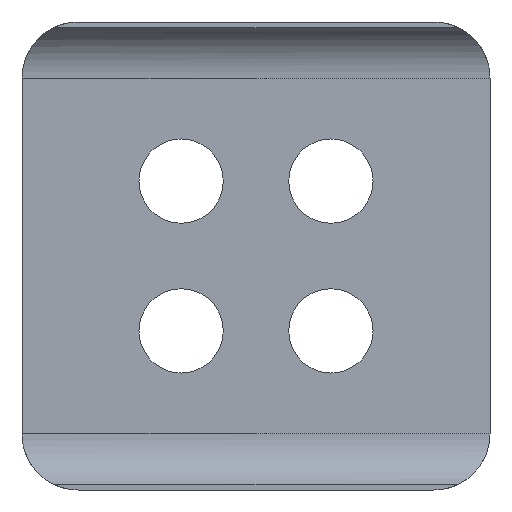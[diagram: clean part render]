
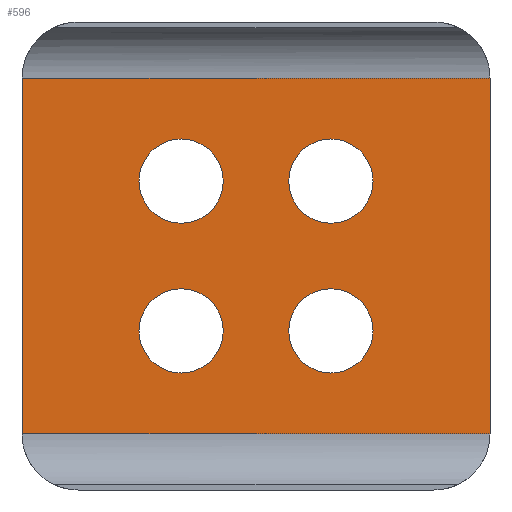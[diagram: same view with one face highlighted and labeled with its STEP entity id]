
A CAD part, front view. The second image highlights one B-rep face of the part: STEP entity #596.
In plain terms, the highlighted planar face has unit normal (0, -1, 0).
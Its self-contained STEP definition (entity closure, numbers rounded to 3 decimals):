
#3 = CARTESIAN_POINT ( 'NONE',  ( 4., -3., 4. ) ) ;
#26 = EDGE_LOOP ( 'NONE', ( #453 ) ) ;
#52 = VERTEX_POINT ( 'NONE', #487 ) ;
#68 = EDGE_LOOP ( 'NONE', ( #877, #412, #797, #834 ) ) ;
#80 = CARTESIAN_POINT ( 'NONE',  ( -4., -3., -4. ) ) ;
#84 = CIRCLE ( 'NONE', #863, 2.25 ) ;
#106 = DIRECTION ( 'NONE',  ( 0., 1., 0. ) ) ;
#120 = CIRCLE ( 'NONE', #735, 2.25 ) ;
#158 = EDGE_CURVE ( 'NONE', #52, #52, #84, .T. ) ;
#174 = FACE_OUTER_BOUND ( 'NONE', #68, .T. ) ;
#224 = EDGE_CURVE ( 'NONE', #690, #509, #668, .T. ) ;
#227 = VERTEX_POINT ( 'NONE', #244 ) ;
#228 = DIRECTION ( 'NONE',  ( 0., -1., 0. ) ) ;
#239 = VECTOR ( 'NONE', #345, 1000. ) ;
#244 = CARTESIAN_POINT ( 'NONE',  ( -12.5, -3., -9.5 ) ) ;
#260 = LINE ( 'NONE', #617, #239 ) ;
#262 = DIRECTION ( 'NONE',  ( 0., 0., 1. ) ) ;
#266 = CARTESIAN_POINT ( 'NONE',  ( 12.5, -3., 9.5 ) ) ;
#288 = EDGE_CURVE ( 'NONE', #484, #227, #260, .T. ) ;
#315 = VERTEX_POINT ( 'NONE', #915 ) ;
#345 = DIRECTION ( 'NONE',  ( 0., 0., -1. ) ) ;
#364 = LINE ( 'NONE', #1032, #469 ) ;
#374 = EDGE_CURVE ( 'NONE', #555, #555, #120, .T. ) ;
#394 = EDGE_CURVE ( 'NONE', #690, #484, #364, .T. ) ;
#412 = ORIENTED_EDGE ( 'NONE', *, *, #901, .F. ) ;
#415 = DIRECTION ( 'NONE',  ( 0., -1., 0. ) ) ;
#435 = AXIS2_PLACEMENT_3D ( 'NONE', #927, #228, #840 ) ;
#443 = FACE_BOUND ( 'NONE', #968, .T. ) ;
#447 = CARTESIAN_POINT ( 'NONE',  ( 4., -3., -4. ) ) ;
#448 = DIRECTION ( 'NONE',  ( 0., -1., 0. ) ) ;
#450 = PLANE ( 'NONE',  #661 ) ;
#453 = ORIENTED_EDGE ( 'NONE', *, *, #941, .F. ) ;
#462 = ORIENTED_EDGE ( 'NONE', *, *, #978, .F. ) ;
#469 = VECTOR ( 'NONE', #771, 1000. ) ;
#484 = VERTEX_POINT ( 'NONE', #536 ) ;
#485 = CARTESIAN_POINT ( 'NONE',  ( 12.5, -3., -9.5 ) ) ;
#487 = CARTESIAN_POINT ( 'NONE',  ( -4., -3., -6.25 ) ) ;
#494 = ORIENTED_EDGE ( 'NONE', *, *, #374, .F. ) ;
#499 = LINE ( 'NONE', #485, #1018 ) ;
#509 = VERTEX_POINT ( 'NONE', #802 ) ;
#518 = FACE_BOUND ( 'NONE', #751, .T. ) ;
#522 = VECTOR ( 'NONE', #1010, 1000. ) ;
#533 = FACE_BOUND ( 'NONE', #26, .T. ) ;
#536 = CARTESIAN_POINT ( 'NONE',  ( -12.5, -3., 9.5 ) ) ;
#555 = VERTEX_POINT ( 'NONE', #821 ) ;
#579 = DIRECTION ( 'NONE',  ( 0., 0., -1. ) ) ;
#596 = ADVANCED_FACE ( 'NONE', ( #959, #443, #518, #533, #174 ), #450, .F. ) ;
#617 = CARTESIAN_POINT ( 'NONE',  ( -12.5, -3., 9.5 ) ) ;
#638 = VERTEX_POINT ( 'NONE', #904 ) ;
#661 = AXIS2_PLACEMENT_3D ( 'NONE', #1111, #106, #262 ) ;
#662 = EDGE_LOOP ( 'NONE', ( #494 ) ) ;
#664 = CARTESIAN_POINT ( 'NONE',  ( 12.5, -3., 9.5 ) ) ;
#668 = LINE ( 'NONE', #664, #522 ) ;
#690 = VERTEX_POINT ( 'NONE', #266 ) ;
#735 = AXIS2_PLACEMENT_3D ( 'NONE', #3, #448, #943 ) ;
#751 = EDGE_LOOP ( 'NONE', ( #854 ) ) ;
#760 = DIRECTION ( 'NONE',  ( 0., 0., -1. ) ) ;
#771 = DIRECTION ( 'NONE',  ( -1., 0., 0. ) ) ;
#797 = ORIENTED_EDGE ( 'NONE', *, *, #224, .F. ) ;
#802 = CARTESIAN_POINT ( 'NONE',  ( 12.5, -3., -9.5 ) ) ;
#821 = CARTESIAN_POINT ( 'NONE',  ( 4., -3., 1.75 ) ) ;
#834 = ORIENTED_EDGE ( 'NONE', *, *, #394, .T. ) ;
#840 = DIRECTION ( 'NONE',  ( 0., 0., -1. ) ) ;
#844 = CIRCLE ( 'NONE', #435, 2.25 ) ;
#854 = ORIENTED_EDGE ( 'NONE', *, *, #158, .F. ) ;
#863 = AXIS2_PLACEMENT_3D ( 'NONE', #80, #415, #579 ) ;
#877 = ORIENTED_EDGE ( 'NONE', *, *, #288, .T. ) ;
#901 = EDGE_CURVE ( 'NONE', #509, #227, #499, .T. ) ;
#904 = CARTESIAN_POINT ( 'NONE',  ( 4., -3., -6.25 ) ) ;
#915 = CARTESIAN_POINT ( 'NONE',  ( -4., -3., 1.75 ) ) ;
#927 = CARTESIAN_POINT ( 'NONE',  ( -4., -3., 4. ) ) ;
#941 = EDGE_CURVE ( 'NONE', #315, #315, #844, .T. ) ;
#943 = DIRECTION ( 'NONE',  ( 0., 0., -1. ) ) ;
#955 = DIRECTION ( 'NONE',  ( 0., -1., 0. ) ) ;
#959 = FACE_BOUND ( 'NONE', #662, .T. ) ;
#968 = EDGE_LOOP ( 'NONE', ( #462 ) ) ;
#971 = AXIS2_PLACEMENT_3D ( 'NONE', #447, #955, #760 ) ;
#978 = EDGE_CURVE ( 'NONE', #638, #638, #1004, .T. ) ;
#1004 = CIRCLE ( 'NONE', #971, 2.25 ) ;
#1010 = DIRECTION ( 'NONE',  ( 0., 0., -1. ) ) ;
#1018 = VECTOR ( 'NONE', #1106, 1000. ) ;
#1032 = CARTESIAN_POINT ( 'NONE',  ( 12.5, -3., 9.5 ) ) ;
#1106 = DIRECTION ( 'NONE',  ( -1., 0., 0. ) ) ;
#1111 = CARTESIAN_POINT ( 'NONE',  ( 12.5, -3., 9.5 ) ) ;
